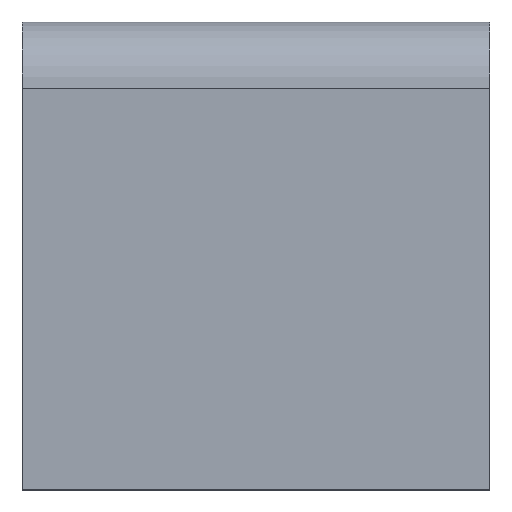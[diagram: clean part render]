
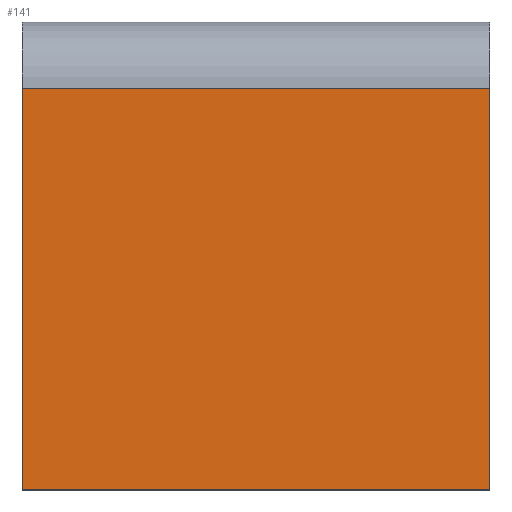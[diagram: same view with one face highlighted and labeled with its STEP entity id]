
A CAD part, top view. The second image highlights one B-rep face of the part: STEP entity #141.
In plain terms, the highlighted planar face has unit normal (0, 0, 1).
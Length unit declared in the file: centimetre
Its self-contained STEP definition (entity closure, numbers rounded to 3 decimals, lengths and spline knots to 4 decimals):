
#2 = EDGE_CURVE ( 'NONE', #56, #113, #472, .T. ) ;
#34 = VERTEX_POINT ( 'NONE', #354 ) ;
#39 = LINE ( 'NONE', #224, #434 ) ;
#47 = LINE ( 'NONE', #198, #303 ) ;
#56 = VERTEX_POINT ( 'NONE', #242 ) ;
#98 = CARTESIAN_POINT ( 'NONE',  ( 0., 0., 1000. ) ) ;
#113 = VERTEX_POINT ( 'NONE', #236 ) ;
#120 = ORIENTED_EDGE ( 'NONE', *, *, #301, .T. ) ;
#136 = FACE_OUTER_BOUND ( 'NONE', #216, .T. ) ;
#141 = ADVANCED_FACE ( 'NONE', ( #136 ), #345, .T. ) ;
#144 = EDGE_CURVE ( 'NONE', #355, #56, #240, .T. ) ;
#152 = DIRECTION ( 'NONE',  ( -1., 0., 0. ) ) ;
#175 = ORIENTED_EDGE ( 'NONE', *, *, #373, .T. ) ;
#198 = CARTESIAN_POINT ( 'NONE',  ( 1000., 1000., 1000. ) ) ;
#216 = EDGE_LOOP ( 'NONE', ( #175, #120, #319, #294 ) ) ;
#218 = DIRECTION ( 'NONE',  ( 1., 0., 0. ) ) ;
#224 = CARTESIAN_POINT ( 'NONE',  ( 0., 857.2813, 1000. ) ) ;
#236 = CARTESIAN_POINT ( 'NONE',  ( 1000., 0., 1000. ) ) ;
#240 = LINE ( 'NONE', #278, #379 ) ;
#242 = CARTESIAN_POINT ( 'NONE',  ( 0., 0., 1000. ) ) ;
#268 = DIRECTION ( 'NONE',  ( 0., 1., 0. ) ) ;
#278 = CARTESIAN_POINT ( 'NONE',  ( 0., 1000., 1000. ) ) ;
#281 = VECTOR ( 'NONE', #218, 100. ) ;
#294 = ORIENTED_EDGE ( 'NONE', *, *, #2, .T. ) ;
#301 = EDGE_CURVE ( 'NONE', #34, #355, #39, .T. ) ;
#303 = VECTOR ( 'NONE', #268, 100. ) ;
#318 = AXIS2_PLACEMENT_3D ( 'NONE', #98, #383, #391 ) ;
#319 = ORIENTED_EDGE ( 'NONE', *, *, #144, .T. ) ;
#345 = PLANE ( 'NONE',  #318 ) ;
#354 = CARTESIAN_POINT ( 'NONE',  ( 1000., 857.2813, 1000. ) ) ;
#355 = VERTEX_POINT ( 'NONE', #361 ) ;
#361 = CARTESIAN_POINT ( 'NONE',  ( 0., 857.2813, 1000. ) ) ;
#373 = EDGE_CURVE ( 'NONE', #113, #34, #47, .T. ) ;
#379 = VECTOR ( 'NONE', #454, 100. ) ;
#383 = DIRECTION ( 'NONE',  ( 0., 0., 1. ) ) ;
#391 = DIRECTION ( 'NONE',  ( 1., 0., 0. ) ) ;
#398 = CARTESIAN_POINT ( 'NONE',  ( 0., 0., 1000. ) ) ;
#434 = VECTOR ( 'NONE', #152, 100. ) ;
#454 = DIRECTION ( 'NONE',  ( 0., -1., 0. ) ) ;
#472 = LINE ( 'NONE', #398, #281 ) ;
